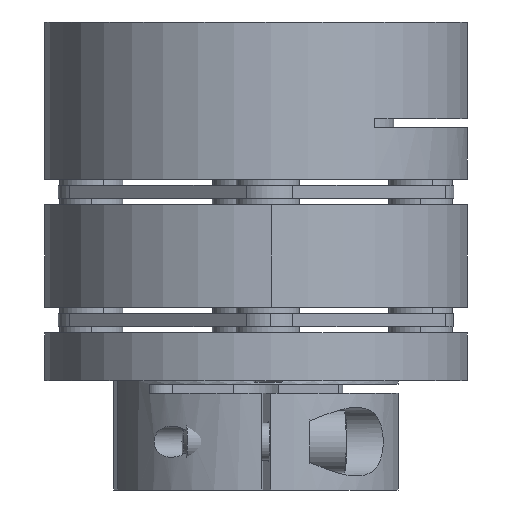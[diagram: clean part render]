
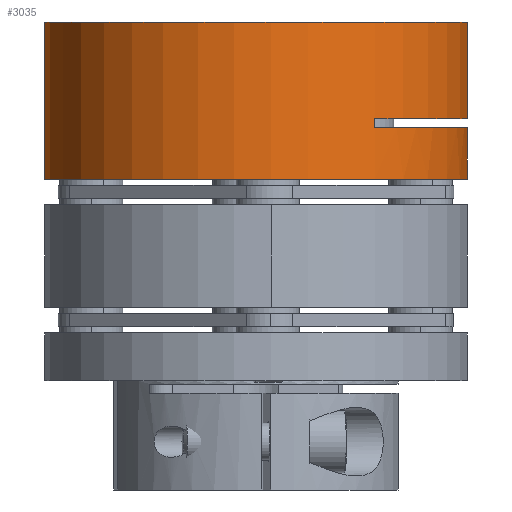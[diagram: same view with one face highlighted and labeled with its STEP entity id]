
A CAD part, front view. The second image highlights one B-rep face of the part: STEP entity #3035.
In plain terms, the highlighted cylindrical face has radius 34 mm (diameter 68 mm), a partial arc.
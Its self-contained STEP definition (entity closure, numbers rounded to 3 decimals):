
#182 = DIRECTION ( 'NONE',  ( 0.997, 0.072, 0. ) ) ;
#493 = DIRECTION ( 'NONE',  ( 0., 0., -1. ) ) ;
#988 = DIRECTION ( 'NONE',  ( -0.997, -0.072, 0. ) ) ;
#1306 = CIRCLE ( 'NONE', #9864, 34. ) ;
#1733 = AXIS2_PLACEMENT_3D ( 'NONE', #14867, #2459, #988 ) ;
#2459 = DIRECTION ( 'NONE',  ( 0., 0., -1. ) ) ;
#2836 = ORIENTED_EDGE ( 'NONE', *, *, #13325, .F. ) ;
#2947 = VECTOR ( 'NONE', #15533, 1000. ) ;
#3035 = ADVANCED_FACE ( 'NONE', ( #18218 ), #8546, .T. ) ;
#3469 = ORIENTED_EDGE ( 'NONE', *, *, #11297, .T. ) ;
#5396 = ORIENTED_EDGE ( 'NONE', *, *, #10081, .F. ) ;
#5428 = DIRECTION ( 'NONE',  ( 0., 0., 1. ) ) ;
#5713 = EDGE_CURVE ( 'NONE', #13523, #10530, #19242, .T. ) ;
#5718 = ORIENTED_EDGE ( 'NONE', *, *, #15129, .F. ) ;
#5815 = DIRECTION ( 'NONE',  ( 0., 0., -1. ) ) ;
#5849 = AXIS2_PLACEMENT_3D ( 'NONE', #18695, #9472, #182 ) ;
#5935 = DIRECTION ( 'NONE',  ( 0., 0., -1. ) ) ;
#5959 = CARTESIAN_POINT ( 'NONE',  ( 26.318, 89.412, 91.227 ) ) ;
#5995 = LINE ( 'NONE', #11502, #17838 ) ;
#7079 = LINE ( 'NONE', #7766, #2947 ) ;
#7766 = CARTESIAN_POINT ( 'NONE',  ( -41.506, 84.521, 108.227 ) ) ;
#8546 = CYLINDRICAL_SURFACE ( 'NONE', #1733, 34. ) ;
#8965 = EDGE_CURVE ( 'NONE', #11178, #19040, #15364, .T. ) ;
#9472 = DIRECTION ( 'NONE',  ( 0., 0., 1. ) ) ;
#9688 = VERTEX_POINT ( 'NONE', #19870 ) ;
#9780 = CARTESIAN_POINT ( 'NONE',  ( -7.594, 86.967, 91.227 ) ) ;
#9864 = AXIS2_PLACEMENT_3D ( 'NONE', #15072, #5815, #16609 ) ;
#10054 = CARTESIAN_POINT ( 'NONE',  ( 26.318, 89.412, 108.227 ) ) ;
#10081 = EDGE_CURVE ( 'NONE', #17685, #9688, #1306, .T. ) ;
#10413 = AXIS2_PLACEMENT_3D ( 'NONE', #9780, #493, #11339 ) ;
#10530 = VERTEX_POINT ( 'NONE', #10054 ) ;
#11004 = CARTESIAN_POINT ( 'NONE',  ( 26.318, 89.412, 92.727 ) ) ;
#11178 = VERTEX_POINT ( 'NONE', #5959 ) ;
#11293 = VECTOR ( 'NONE', #5935, 1000. ) ;
#11297 = EDGE_CURVE ( 'NONE', #13523, #12990, #7079, .T. ) ;
#11339 = DIRECTION ( 'NONE',  ( -0.997, -0.072, 0. ) ) ;
#11502 = CARTESIAN_POINT ( 'NONE',  ( 26.318, 89.412, 108.227 ) ) ;
#11625 = VECTOR ( 'NONE', #16595, 1000. ) ;
#12104 = LINE ( 'NONE', #19778, #11625 ) ;
#12955 = AXIS2_PLACEMENT_3D ( 'NONE', #14714, #5428, #16239 ) ;
#12990 = VERTEX_POINT ( 'NONE', #14474 ) ;
#13325 = EDGE_CURVE ( 'NONE', #9688, #19040, #12104, .T. ) ;
#13523 = VERTEX_POINT ( 'NONE', #17138 ) ;
#13576 = EDGE_LOOP ( 'NONE', ( #19924, #18493, #3469, #19990, #5718, #14428, #2836, #5396 ) ) ;
#13800 = CIRCLE ( 'NONE', #12955, 34. ) ;
#14428 = ORIENTED_EDGE ( 'NONE', *, *, #8965, .T. ) ;
#14474 = CARTESIAN_POINT ( 'NONE',  ( -41.506, 84.521, 83.027 ) ) ;
#14664 = VERTEX_POINT ( 'NONE', #15433 ) ;
#14714 = CARTESIAN_POINT ( 'NONE',  ( -7.594, 86.967, 83.027 ) ) ;
#14867 = CARTESIAN_POINT ( 'NONE',  ( -7.594, 86.967, 108.227 ) ) ;
#14952 = EDGE_CURVE ( 'NONE', #10530, #17685, #5995, .T. ) ;
#15072 = CARTESIAN_POINT ( 'NONE',  ( -7.594, 86.967, 92.727 ) ) ;
#15129 = EDGE_CURVE ( 'NONE', #11178, #14664, #19507, .T. ) ;
#15194 = CARTESIAN_POINT ( 'NONE',  ( 26.318, 89.412, 108.227 ) ) ;
#15364 = CIRCLE ( 'NONE', #10413, 34. ) ;
#15433 = CARTESIAN_POINT ( 'NONE',  ( 26.318, 89.412, 83.027 ) ) ;
#15533 = DIRECTION ( 'NONE',  ( 0., 0., -1. ) ) ;
#16164 = DIRECTION ( 'NONE',  ( 0., 0., -1. ) ) ;
#16239 = DIRECTION ( 'NONE',  ( 0.997, 0.072, 0. ) ) ;
#16595 = DIRECTION ( 'NONE',  ( 0., 0., -1. ) ) ;
#16609 = DIRECTION ( 'NONE',  ( -0.997, -0.072, 0. ) ) ;
#17138 = CARTESIAN_POINT ( 'NONE',  ( -41.506, 84.521, 108.227 ) ) ;
#17685 = VERTEX_POINT ( 'NONE', #11004 ) ;
#17838 = VECTOR ( 'NONE', #16164, 1000. ) ;
#18103 = CARTESIAN_POINT ( 'NONE',  ( 11.468, 58.812, 91.227 ) ) ;
#18218 = FACE_OUTER_BOUND ( 'NONE', #13576, .T. ) ;
#18393 = EDGE_CURVE ( 'NONE', #12990, #14664, #13800, .T. ) ;
#18493 = ORIENTED_EDGE ( 'NONE', *, *, #5713, .F. ) ;
#18695 = CARTESIAN_POINT ( 'NONE',  ( -7.594, 86.967, 108.227 ) ) ;
#19040 = VERTEX_POINT ( 'NONE', #18103 ) ;
#19242 = CIRCLE ( 'NONE', #5849, 34. ) ;
#19507 = LINE ( 'NONE', #15194, #11293 ) ;
#19778 = CARTESIAN_POINT ( 'NONE',  ( 11.468, 58.812, 92.727 ) ) ;
#19870 = CARTESIAN_POINT ( 'NONE',  ( 11.468, 58.812, 92.727 ) ) ;
#19924 = ORIENTED_EDGE ( 'NONE', *, *, #14952, .F. ) ;
#19990 = ORIENTED_EDGE ( 'NONE', *, *, #18393, .T. ) ;
